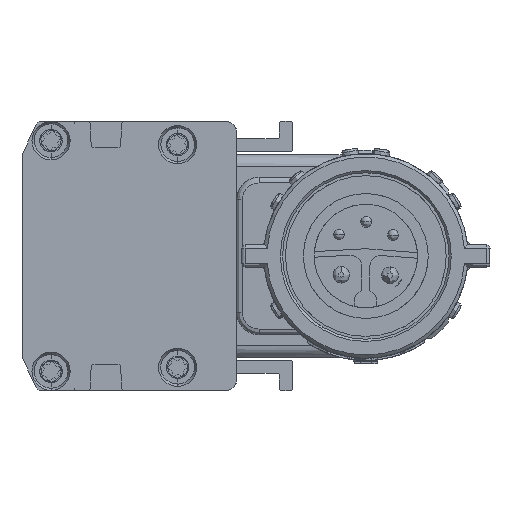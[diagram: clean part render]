
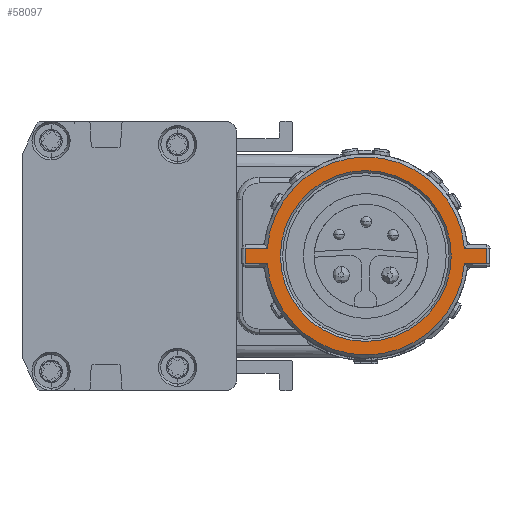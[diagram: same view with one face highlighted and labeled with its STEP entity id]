
A CAD part, left-side view. The second image highlights one B-rep face of the part: STEP entity #58097.
In plain terms, the highlighted planar face has unit normal (-1, 0, 0).
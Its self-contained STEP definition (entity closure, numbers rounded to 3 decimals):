
#871 = LINE ( 'NONE', #35166, #42747 ) ;
#2248 = VERTEX_POINT ( 'NONE', #2540 ) ;
#2540 = CARTESIAN_POINT ( 'NONE',  ( 0., -10.74, 0.7 ) ) ;
#3010 = CARTESIAN_POINT ( 'NONE',  ( 0., -3.795, 6.582 ) ) ;
#3924 = CARTESIAN_POINT ( 'NONE',  ( 0., 10.75, -0.7 ) ) ;
#4382 = EDGE_CURVE ( 'NONE', #8551, #62518, #41324, .T. ) ;
#5586 = VERTEX_POINT ( 'NONE', #42280 ) ;
#6352 = CARTESIAN_POINT ( 'NONE',  ( 0., -10.74, 0.7 ) ) ;
#6644 = EDGE_CURVE ( 'NONE', #2248, #25487, #36352, .T. ) ;
#6743 = DIRECTION ( 'NONE',  ( 0., 1., 0. ) ) ;
#6815 = DIRECTION ( 'NONE',  ( 0., -0.5, 0.866 ) ) ;
#7296 = DIRECTION ( 'NONE',  ( -1., 0., 0. ) ) ;
#7318 = ORIENTED_EDGE ( 'NONE', *, *, #72702, .F. ) ;
#7785 = AXIS2_PLACEMENT_3D ( 'NONE', #74226, #34161, #20958 ) ;
#8551 = VERTEX_POINT ( 'NONE', #53541 ) ;
#9110 = EDGE_LOOP ( 'NONE', ( #14341, #14198 ) ) ;
#10095 = CARTESIAN_POINT ( 'NONE',  ( 0., 3.805, -6.582 ) ) ;
#11865 = FACE_BOUND ( 'NONE', #9110, .T. ) ;
#12163 = DIRECTION ( 'NONE',  ( 0., -1., 0. ) ) ;
#12730 = ORIENTED_EDGE ( 'NONE', *, *, #4382, .F. ) ;
#13957 = CIRCLE ( 'NONE', #52441, 8.8 ) ;
#14198 = ORIENTED_EDGE ( 'NONE', *, *, #68382, .F. ) ;
#14341 = ORIENTED_EDGE ( 'NONE', *, *, #22931, .F. ) ;
#14452 = VERTEX_POINT ( 'NONE', #10095 ) ;
#17323 = DIRECTION ( 'NONE',  ( 0., -1., 0. ) ) ;
#18061 = LINE ( 'NONE', #72849, #33923 ) ;
#18405 = LINE ( 'NONE', #30086, #76224 ) ;
#19860 = EDGE_CURVE ( 'NONE', #33574, #2248, #18405, .T. ) ;
#20958 = DIRECTION ( 'NONE',  ( 0., 0.5, -0.866 ) ) ;
#22931 = EDGE_CURVE ( 'NONE', #50102, #14452, #45545, .T. ) ;
#23848 = CARTESIAN_POINT ( 'NONE',  ( 0., 0.005, 0. ) ) ;
#24382 = ORIENTED_EDGE ( 'NONE', *, *, #74772, .F. ) ;
#24398 = AXIS2_PLACEMENT_3D ( 'NONE', #23848, #46794, #48628 ) ;
#25402 = CARTESIAN_POINT ( 'NONE',  ( 0., -10.74, -0.7 ) ) ;
#25430 = DIRECTION ( 'NONE',  ( 0., 0., -1. ) ) ;
#25487 = VERTEX_POINT ( 'NONE', #25402 ) ;
#27676 = DIRECTION ( 'NONE',  ( 0., 0., 1. ) ) ;
#30086 = CARTESIAN_POINT ( 'NONE',  ( 0., -8.767, 0.7 ) ) ;
#30565 = DIRECTION ( 'NONE',  ( 1., 0., 0. ) ) ;
#31594 = DIRECTION ( 'NONE',  ( 0., -1., 0. ) ) ;
#33146 = LINE ( 'NONE', #3924, #59080 ) ;
#33574 = VERTEX_POINT ( 'NONE', #75182 ) ;
#33923 = VECTOR ( 'NONE', #6743, 1000. ) ;
#34161 = DIRECTION ( 'NONE',  ( 1., 0., 0. ) ) ;
#35166 = CARTESIAN_POINT ( 'NONE',  ( 0., -10.74, -0.7 ) ) ;
#36352 = LINE ( 'NONE', #6352, #64767 ) ;
#40665 = CARTESIAN_POINT ( 'NONE',  ( 0., 0.005, 0. ) ) ;
#41324 = CIRCLE ( 'NONE', #7785, 8.8 ) ;
#42036 = ORIENTED_EDGE ( 'NONE', *, *, #59580, .F. ) ;
#42280 = CARTESIAN_POINT ( 'NONE',  ( 0., 8.777, 0.7 ) ) ;
#42747 = VECTOR ( 'NONE', #76357, 1000. ) ;
#43266 = CARTESIAN_POINT ( 'NONE',  ( 0., 10.75, -0.7 ) ) ;
#43684 = AXIS2_PLACEMENT_3D ( 'NONE', #60629, #7296, #65690 ) ;
#44400 = CARTESIAN_POINT ( 'NONE',  ( 0., 10.75, 0.7 ) ) ;
#45545 = CIRCLE ( 'NONE', #24398, 7.6 ) ;
#46794 = DIRECTION ( 'NONE',  ( -1., 0., 0. ) ) ;
#48619 = ORIENTED_EDGE ( 'NONE', *, *, #56505, .F. ) ;
#48628 = DIRECTION ( 'NONE',  ( 0., -0.5, 0.866 ) ) ;
#50102 = VERTEX_POINT ( 'NONE', #3010 ) ;
#51122 = CIRCLE ( 'NONE', #43684, 7.6 ) ;
#52441 = AXIS2_PLACEMENT_3D ( 'NONE', #59003, #52744, #6815 ) ;
#52744 = DIRECTION ( 'NONE',  ( 1., 0., 0. ) ) ;
#53541 = CARTESIAN_POINT ( 'NONE',  ( 0., -8.767, -0.7 ) ) ;
#56477 = LINE ( 'NONE', #44400, #77008 ) ;
#56505 = EDGE_CURVE ( 'NONE', #58644, #5586, #56477, .T. ) ;
#57826 = ORIENTED_EDGE ( 'NONE', *, *, #19860, .F. ) ;
#58097 = ADVANCED_FACE ( 'NONE', ( #11865, #65929 ), #59368, .F. ) ;
#58644 = VERTEX_POINT ( 'NONE', #71375 ) ;
#59003 = CARTESIAN_POINT ( 'NONE',  ( 0., 0.005, 0. ) ) ;
#59080 = VECTOR ( 'NONE', #27676, 1000. ) ;
#59368 = PLANE ( 'NONE',  #71010 ) ;
#59580 = EDGE_CURVE ( 'NONE', #5586, #33574, #13957, .T. ) ;
#60629 = CARTESIAN_POINT ( 'NONE',  ( 0., 0.005, 0. ) ) ;
#60823 = EDGE_CURVE ( 'NONE', #25487, #8551, #871, .T. ) ;
#62518 = VERTEX_POINT ( 'NONE', #75079 ) ;
#64466 = ORIENTED_EDGE ( 'NONE', *, *, #60823, .F. ) ;
#64767 = VECTOR ( 'NONE', #25430, 1000. ) ;
#65690 = DIRECTION ( 'NONE',  ( 0., 0.5, -0.866 ) ) ;
#65929 = FACE_OUTER_BOUND ( 'NONE', #69525, .T. ) ;
#66100 = ORIENTED_EDGE ( 'NONE', *, *, #6644, .F. ) ;
#68181 = VERTEX_POINT ( 'NONE', #43266 ) ;
#68382 = EDGE_CURVE ( 'NONE', #14452, #50102, #51122, .T. ) ;
#69525 = EDGE_LOOP ( 'NONE', ( #42036, #48619, #24382, #7318, #12730, #64466, #66100, #57826 ) ) ;
#71010 = AXIS2_PLACEMENT_3D ( 'NONE', #40665, #30565, #17323 ) ;
#71375 = CARTESIAN_POINT ( 'NONE',  ( 0., 10.75, 0.7 ) ) ;
#72702 = EDGE_CURVE ( 'NONE', #62518, #68181, #18061, .T. ) ;
#72849 = CARTESIAN_POINT ( 'NONE',  ( 0., 8.777, -0.7 ) ) ;
#74226 = CARTESIAN_POINT ( 'NONE',  ( 0., 0.005, 0. ) ) ;
#74772 = EDGE_CURVE ( 'NONE', #68181, #58644, #33146, .T. ) ;
#75079 = CARTESIAN_POINT ( 'NONE',  ( 0., 8.777, -0.7 ) ) ;
#75182 = CARTESIAN_POINT ( 'NONE',  ( 0., -8.767, 0.7 ) ) ;
#76224 = VECTOR ( 'NONE', #12163, 1000. ) ;
#76357 = DIRECTION ( 'NONE',  ( 0., 1., 0. ) ) ;
#77008 = VECTOR ( 'NONE', #31594, 1000. ) ;
